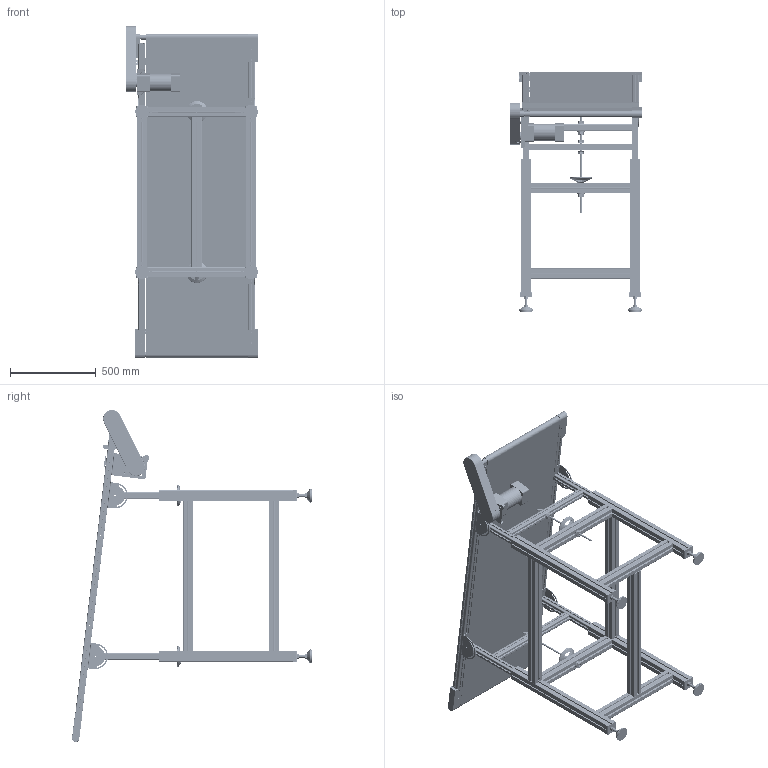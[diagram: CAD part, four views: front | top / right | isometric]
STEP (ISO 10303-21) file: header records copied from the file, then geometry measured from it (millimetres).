
FILE_DESCRIPTION(/* description */ (''),/* implementation_level */ '2;1');
FILE_NAME(/* name */ 'beltconveyor_a088_w600_l1900.stp',/* time_stamp */ '2025-01-02T21:16:22+08:00',/* author */ (''),/* organization */ (''),/* preprocessor_version */ 'ST-DEVELOPER v16.7',/* originating_system */ 'SIEMENS PLM Software NX 12.0',/* authorisation */ '');
FILE_SCHEMA (('AUTOMOTIVE_DESIGN { 1 0 10303 214 3 1 1 1 }'));
Products named in the file (38): HI_BZR01-8016100-001                                                 
                           24 14.8 8016100; HI_BZR01-8016100-002                                                 
                           24 14.8 8016100; deep groove ball bearings gb_Rolling bearings 6003 GB 276-94; 轴承固定座; 脚杯固定钣金; EBL33-S8M250-20-A-N-d17（同步轮）; 传动主轴; 张紧块; 角度连接板; 皮带; 电机固定板B; 传动轴; 皮带罩; AGB06-3030-L920; EBL33-S8M250-32-A-N-d18（同步轮）; 300W调速减速电机A; 支架; 钣金底板; AOB05-4040-L1800; 护轴套; 60型材; HAL01-D125(手轮）; AOB02-H6060E-L876; AOB02-H6060E-L1000; AOB05-4040-L600; 螺杆; hex nuts with flange-fine pitch gb_PreviewCfg; plain washers-l series-grades ac gb_PreviewCfg; AOB05-4040-L898; 光电按装板; 档料铝条; 轴承座; 皮带线上架; BZR01-8016100（脚杯）; 脚杯; 流水线下架; 可调架; beltconveyor_a088_w600_l1900
Assembly tree (75 placements, depth 5):
  beltconveyor_a088_w600_l1900
    档料铝条
    光电按装板  x2
    可调架  x2
      AOB05-4040-L898
      plain washers-l series-grades ac gb_PreviewCfg
      hex nuts with flange-fine pitch gb_PreviewCfg
      螺杆
      AOB05-4040-L600
    流水线下架
      plain washers-l series-grades ac gb_PreviewCfg  x2
      AOB02-H6060E-L1000  x3
      AOB02-H6060E-L876  x4
      脚杯  x4
        BZR01-8016100（脚杯）
          HI_BZR01-8016100-002                                                 
                           24 14.8 8016100
          HI_BZR01-8016100-001                                                 
                           24 14.8 8016100
        脚杯固定钣金
      hex nuts with flange-fine pitch gb_PreviewCfg  x2
      HAL01-D125(手轮）  x2
      60型材  x4
    皮带线上架
      护轴套  x3
      轴承座  x4
        轴承固定座
        deep groove ball bearings gb_Rolling bearings 6003 GB 276-94
      AOB05-4040-L1800  x2
      钣金底板  x3
      支架  x3
      300W调速减速电机A
      EBL33-S8M250-32-A-N-d18（同步轮）
      AGB06-3030-L920  x4
      皮带罩
      传动轴
      电机固定板B
      皮带
      角度连接板  x4
      张紧块  x2
      传动主轴
      EBL33-S8M250-20-A-N-d17（同步轮）
Bounding box: 775 x 1401.31 x 1938.36 mm (x, y, z)
Volume: 32575897.7 mm3; surface area: 18809530.3 mm2
Topology: 279 solids, 279 shells, 9489 faces, 27167 edges, 17929 vertices
Faces by surface type: plane 4395, cylinder 2343, extrusion 1968, torus 394, cone 217, sphere 136, bspline 36
Entity records: 117404 total; most frequent: CARTESIAN_POINT 32702, ORIENTED_EDGE 18438, DIRECTION 15543, EDGE_CURVE 9219, VERTEX_POINT 6099, AXIS2_PLACEMENT_3D 5261, VECTOR 5021, LINE 4529
